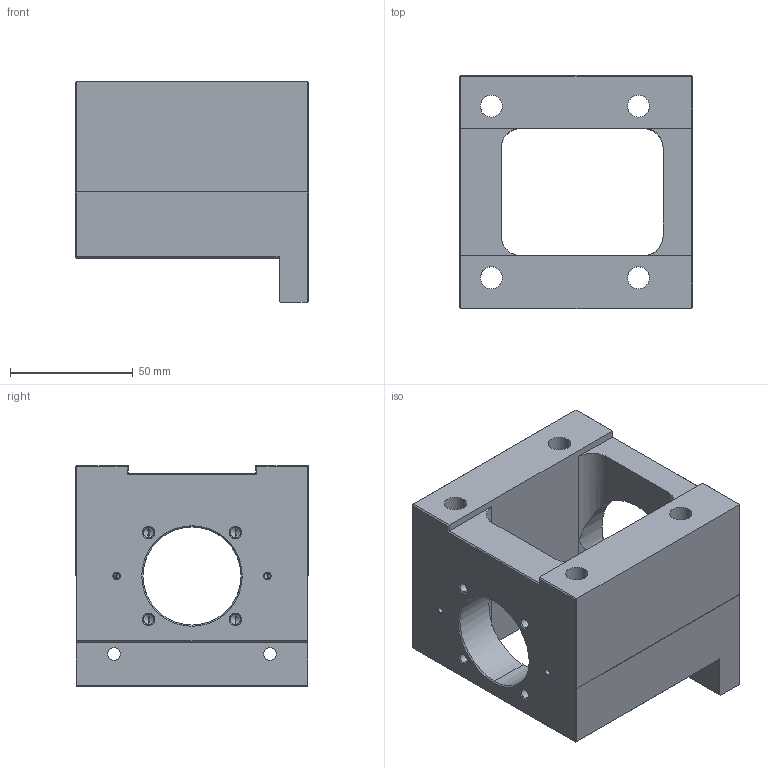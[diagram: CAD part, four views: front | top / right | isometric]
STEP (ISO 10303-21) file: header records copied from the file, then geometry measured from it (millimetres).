
FILE_DESCRIPTION (( 'STEP AP203' ), '1' );
FILE_NAME ('MBH15-E.STEP', '2017-12-28T06:27:06', ( '' ), ( '' ), 'SwSTEP 2.0', 'SolidWorks 2017', '' );
FILE_SCHEMA (( 'CONFIG_CONTROL_DESIGN' ));
Length unit declared in the file: millimetre
Products named in the file (1): MBH15-E
Bounding box: 95 x 95 x 90 mm (x, y, z)
Volume: 331222.9 mm3; surface area: 67238.7 mm2
Topology: 1 solids, 1 shells, 168 faces, 420 edges, 241 vertices
Faces by surface type: cone 66, cylinder 56, plane 46
Entity records: 5063 total; most frequent: CARTESIAN_POINT 984, DIRECTION 880, ORIENTED_EDGE 792, EDGE_CURVE 396, AXIS2_PLACEMENT_3D 325, VERTEX_POINT 241, VECTOR 230, LINE 230
